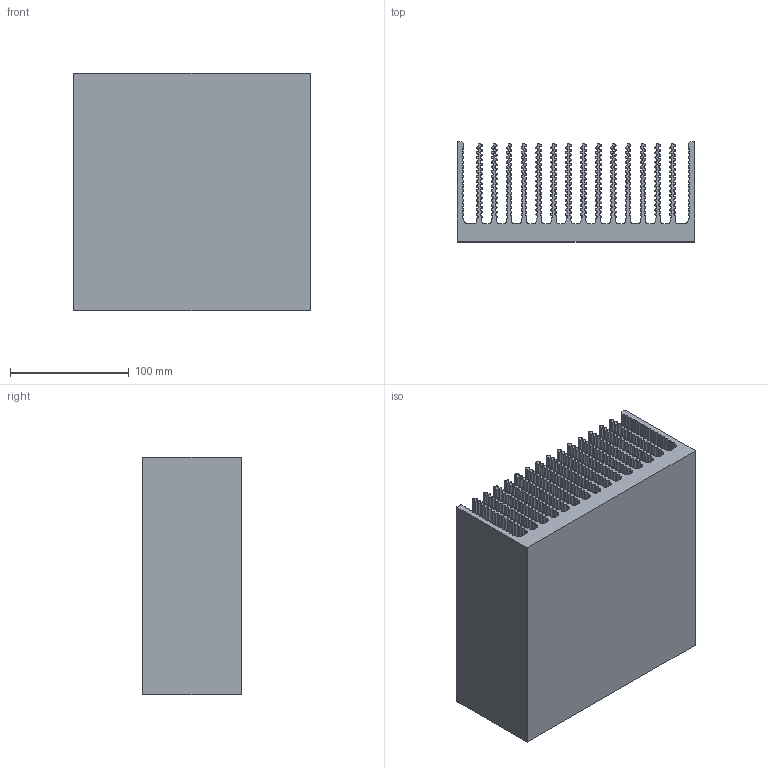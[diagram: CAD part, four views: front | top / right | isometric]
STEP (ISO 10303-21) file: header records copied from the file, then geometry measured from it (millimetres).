
FILE_DESCRIPTION (( 'STEP AP214' ), '1' );
FILE_NAME ('PR327.STEP', '2013-04-23T09:07:19', ( '' ), ( '' ), 'SwSTEP 2.0', 'SolidWorks 2013', '' );
FILE_SCHEMA (( 'AUTOMOTIVE_DESIGN' ));
Length unit declared in the file: millimetre
Products named in the file (1): PR327
Bounding box: 200 x 84 x 200 mm (x, y, z)
Volume: 1313618.4 mm3; surface area: 660634.2 mm2
Topology: 1 solids, 1 shells, 1537 faces, 4605 edges, 3070 vertices
Faces by surface type: cylinder 1471, plane 66
Entity records: 53655 total; most frequent: DIRECTION 10623, CARTESIAN_POINT 9213, ORIENTED_EDGE 9210, EDGE_CURVE 4605, AXIS2_PLACEMENT_3D 4480, VERTEX_POINT 3070, CIRCLE 2942, VECTOR 1663
